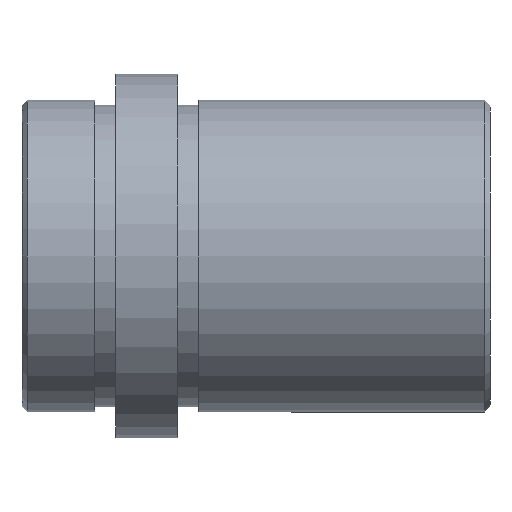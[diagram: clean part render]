
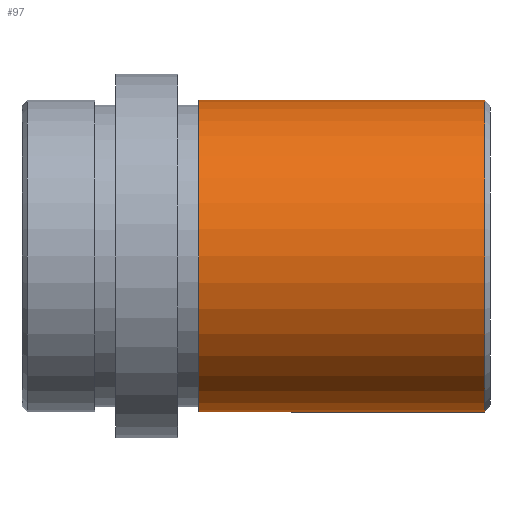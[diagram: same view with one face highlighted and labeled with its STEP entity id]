
A CAD part, front view. The second image highlights one B-rep face of the part: STEP entity #97.
In plain terms, the highlighted face is a revolution surface.
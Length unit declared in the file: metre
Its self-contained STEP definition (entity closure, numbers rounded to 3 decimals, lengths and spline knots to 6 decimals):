
#97 = ADVANCED_FACE( '', ( #149 ), #150, .F. );
#149 = FACE_OUTER_BOUND( '', #235, .T. );
#150 = SURFACE_OF_REVOLUTION( '', #236, #237 );
#235 = EDGE_LOOP( '', ( #403, #404, #405, #406 ) );
#236 = B_SPLINE_CURVE_WITH_KNOTS( '', 1, ( #407, #408 ), .UNSPECIFIED., .F., .F., ( 2, 2 ), ( -10000., 10000. ), .UNSPECIFIED. );
#237 = AXIS1_PLACEMENT( '', #409, #410 );
#403 = ORIENTED_EDGE( '', *, *, #482, .T. );
#404 = ORIENTED_EDGE( '', *, *, #485, .T. );
#405 = ORIENTED_EDGE( '', *, *, #489, .F. );
#406 = ORIENTED_EDGE( '', *, *, #483, .T. );
#407 = CARTESIAN_POINT( '', ( 10000.0445, 0., 0.015 ) );
#408 = CARTESIAN_POINT( '', ( -9999.9555, 0., 0.015 ) );
#409 = CARTESIAN_POINT( '', ( 0., 0., 0. ) );
#410 = DIRECTION( '', ( 1., 0., 0. ) );
#482 = EDGE_CURVE( '', #552, #554, #560, .T. );
#483 = EDGE_CURVE( '', #561, #552, #562, .F. );
#485 = EDGE_CURVE( '', #554, #563, #565, .T. );
#489 = EDGE_CURVE( '', #561, #563, #571, .T. );
#552 = VERTEX_POINT( '', #646 );
#554 = VERTEX_POINT( '', #649 );
#560 = CIRCLE( '', #658, 0.015 );
#561 = VERTEX_POINT( '', #659 );
#562 = LINE( '', #660, #661 );
#563 = VERTEX_POINT( '', #662 );
#565 = LINE( '', #664, #665 );
#571 = CIRCLE( '', #673, 0.015 );
#646 = CARTESIAN_POINT( '', ( 0.0445, 0., -0.015 ) );
#649 = CARTESIAN_POINT( '', ( 0.0445, 0., 0.015 ) );
#658 = AXIS2_PLACEMENT_3D( '', #772, #773, #774 );
#659 = CARTESIAN_POINT( '', ( 0.017, 0., -0.015 ) );
#660 = CARTESIAN_POINT( '', ( 0.0445, 0., -0.015 ) );
#661 = VECTOR( '', #775, 1. );
#662 = CARTESIAN_POINT( '', ( 0.017, 0., 0.015 ) );
#664 = CARTESIAN_POINT( '', ( 0.0445, 0., 0.015 ) );
#665 = VECTOR( '', #779, 1. );
#673 = AXIS2_PLACEMENT_3D( '', #785, #786, #787 );
#772 = CARTESIAN_POINT( '', ( 0.0445, 0., 0. ) );
#773 = DIRECTION( '', ( -1., 0., 0. ) );
#774 = DIRECTION( '', ( 0., 0., 1. ) );
#775 = DIRECTION( '', ( -1., 0., 0. ) );
#779 = DIRECTION( '', ( -1., 0., 0. ) );
#785 = CARTESIAN_POINT( '', ( 0.017, 0., 0. ) );
#786 = DIRECTION( '', ( -1., 0., 0. ) );
#787 = DIRECTION( '', ( 0., 0., 1. ) );
